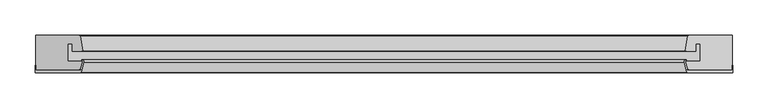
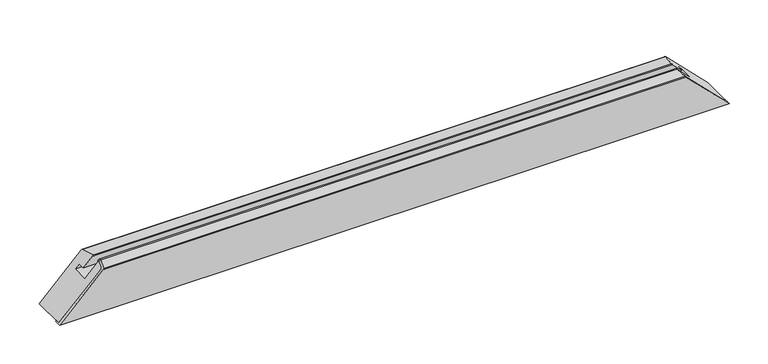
"""IFC4 building model written with IfcOpenShell, lengths in millimetres: proxy geometry, Weiku - Montante - Caixilho fixo 02.2.01.005 : Weiku - Montante - Caixilho fixo 02.2.01.005."""

from ifc_helpers import new_model, si_unit, frame, origin, place, context, project, spatial, polyline, ellipse_curve, source, transform, mapped, element, save
from ifc_brep_helpers import plane_surface, cylinder_surface, revolved_surface, advanced_brep


def generic_models_c9293ff8(model_context):
    return source(origin(), model_context, "Body", "AdvancedBrep", [
        advanced_brep(
        [(498.5, -43.5137905, -1.0), (497.5, -43.5137905, 0.0), (497.5, -50.0, 0.0), (435.9997332, -50.0, 61.5002668), (433.1019557, -47.7764571, 64.3980443), (430.618227, -38.5070552, 66.881773), (431.3909676, -37.5, 66.1090324), (431.3909676, -35.5, 66.1090324), (428.6863753, -39.0246933, 68.8136247), (432.5003978, -53.258819, 64.9996022), (433.4663236, -54.0, 64.0336764), (498.5, -54.0, -1.0), (-498.5, -54.0, -1.0), (-433.4663236, -54.0, 64.0336764), (-432.5003978, -53.258819, 64.9996022), (-428.6863753, -39.0246933, 68.8136247), (-431.3909676, -35.5, 66.1090324), (-431.3909676, -37.5, 66.1090324), (-430.618227, -38.5070552, 66.881773), (-433.1019557, -47.7764571, 64.3980443), (-435.9997332, -50.0, 61.5002668), (-497.5, -50.0, 0.0), (-497.5, -43.5137905, 0.0), (-498.5, -43.5137905, -1.0)],
        [
            (0, 1),
            (1, 2),
            (2, 3),
            (3, 4, ellipse_curve(frame((435.9997332, -47.0, 61.5002668), z_axis=(-0.7071067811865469, 0.0, -0.7071067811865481), x_axis=(0.7071067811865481, 0.0, -0.7071067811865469)), 4.2426407, 3.0)),
            (4, 5),
            (5, 6, ellipse_curve(frame((431.3909676, -38.3, 66.1090324), z_axis=(-0.7071067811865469, 0.0, -0.7071067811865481), x_axis=(0.7071067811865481, 0.0, -0.7071067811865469)), 1.1313708, 0.8)),
            (6, 7),
            (7, 8, ellipse_curve(frame((431.3909676, -38.3, 66.1090324), z_axis=(0.7071067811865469, 0.0, 0.7071067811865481), x_axis=(-0.7071067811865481, 0.0, 0.7071067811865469)), 3.959798, 2.8)),
            (8, 9),
            (9, 10, ellipse_curve(frame((433.4663236, -53.0, 64.0336764), z_axis=(0.7071067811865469, 0.0, 0.7071067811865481), x_axis=(-0.7071067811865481, 0.0, 0.7071067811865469)), 1.4142136, 1.0)),
            (10, 11),
            (11, 0),
            (12, 13),
            (13, 14, ellipse_curve(frame((-433.4663236, -53.0, 64.0336764), z_axis=(-0.7071067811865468, 0.0, 0.7071067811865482), x_axis=(-0.7071067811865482, 0.0, -0.7071067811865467)), 1.4142136, 1.0)),
            (14, 15),
            (15, 16, ellipse_curve(frame((-431.3909676, -38.3, 66.1090324), z_axis=(-0.7071067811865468, 0.0, 0.7071067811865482), x_axis=(-0.7071067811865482, 0.0, -0.7071067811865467)), 3.959798, 2.8)),
            (16, 17),
            (17, 18, ellipse_curve(frame((-431.3909676, -38.3, 66.1090324), z_axis=(0.7071067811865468, 0.0, -0.7071067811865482), x_axis=(0.7071067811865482, 0.0, 0.7071067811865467)), 1.1313708, 0.8)),
            (18, 19),
            (19, 20, ellipse_curve(frame((-435.9997332, -47.0, 61.5002668), z_axis=(0.7071067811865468, 0.0, -0.7071067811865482), x_axis=(0.7071067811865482, 0.0, 0.7071067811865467)), 4.2426407, 3.0)),
            (20, 21),
            (21, 22),
            (22, 23),
            (23, 12),
            (11, 12),
            (23, 0),
            (22, 1),
            (21, 2),
            (20, 3),
            (19, 4),
            (18, 5),
            (17, 6),
            (16, 7),
            (15, 8),
            (14, 9),
            (13, 10),
        ],
        [
            plane_surface(frame((427.5, 15.0, 70.0), z_axis=(0.7071067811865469, 0.0, 0.7071067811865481), x_axis=(0.0, -1.0, 0.0))),
            plane_surface(frame((-567.5, 15.0, -70.0), z_axis=(-0.7071067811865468, 0.0, 0.7071067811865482), x_axis=(0.0, -1.0, 0.0))),
            plane_surface(frame((-500.3284271, -54.0, -1.0), z_axis=(0.0, 0.0, -1.0), x_axis=(1.0, 0.0, 0.0))),
            plane_surface(frame((-500.3284271, -43.5137905, -1.0), z_axis=(0.0, 1.0, 0.0), x_axis=(1.0, 0.0, 0.0))),
            plane_surface(frame((-500.3284271, -43.5137905, 0.0), z_axis=(0.0, 0.0, 1.0), x_axis=(1.0, 0.0, 0.0))),
            plane_surface(frame((-500.3284271, -50.0, 0.0), z_axis=(0.0, 1.0, 0.0), x_axis=(1.0, 0.0, 0.0))),
            revolved_surface(polyline([(438.99973320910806, -44.0, 61.5002668), (-438.999733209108, -44.0, 61.5002668)]), (-500.3284271, -47.0, 61.5002668), (1.0, 0.0, 0.0)),
            plane_surface(frame((-500.3284271, -47.7764571, 64.3980443), z_axis=(0.0, 0.2588190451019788, -0.9659258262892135), x_axis=(1.0, 0.0, 0.0))),
            revolved_surface(polyline([(432.1909675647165, -37.5, 66.1090324), (-432.19096756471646, -37.5, 66.1090324)]), (-500.3284271, -38.3, 66.1090324), (1.0, 0.0, 0.0)),
            plane_surface(frame((-500.3284271, -37.5, 66.1090324), z_axis=(0.0, 0.0, -1.0), x_axis=(1.0, 0.0, 0.0))),
            cylinder_surface(frame((-500.3284271, -38.3, 66.1090324), z_axis=(-1.0, 0.0, 0.0), x_axis=(0.0, 1.0, 0.0)), 2.8),
            plane_surface(frame((-500.3284271, -39.0246933, 68.8136247), z_axis=(0.0, -0.25881904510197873, 0.9659258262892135), x_axis=(1.0, 0.0, 0.0))),
            cylinder_surface(frame((-500.3284271, -53.0, 64.0336764), z_axis=(-1.0, 0.0, 0.0), x_axis=(0.0, 1.0, 0.0)), 1.0),
            plane_surface(frame((-500.3284271, -54.0, 64.0336764), z_axis=(0.0, -1.0, 0.0), x_axis=(1.0, 0.0, 0.0))),
        ],
        [
            (0, [[1, 2, 3, 4, 5, 6, 7, 8, 9, 10, 11, 12]]),
            (1, [[13, 14, 15, 16, 17, 18, 19, 20, 21, 22, 23, 24]]),
            (2, [[25, -24, 26, -12]]),
            (3, [[-26, -23, 27, -1]]),
            (4, [[-27, -22, 28, -2]]),
            (5, [[-28, -21, 29, -3]]),
            (6, [[-29, -20, 30, -4]]),
            (7, [[-30, -19, 31, -5]]),
            (8, [[-31, -18, 32, -6]]),
            (9, [[-32, -17, 33, -7]]),
            (10, [[-33, -16, 34, -8]]),
            (11, [[-34, -15, 35, -9]]),
            (12, [[-35, -14, 36, -10]]),
            (13, [[-36, -13, -25, -11]]),
        ],
    ),
        advanced_brep(
        [(-430.618227, -38.5070552, 66.881773), (-431.3909676, -37.5, 66.1090324), (-451.5, -37.5, 46.0), (-451.5, -12.5, 46.0), (-445.5009154, -12.5, 51.9990846), (-445.5009154, -23.5, 51.9990846), (-431.4865015, -23.5, 66.0134985), (-430.4998537, -22.3371317, 67.0001463), (-434.0489094, -0.8371317, 63.4510906), (-435.0355572, 0.0, 62.4644428), (-497.5, 0.0, 0.0), (-497.5, -50.0, 0.0), (-435.9997332, -50.0, 61.5002668), (-433.1019557, -47.7764571, 64.3980443), (433.1019557, -47.7764571, 64.3980443), (435.9997332, -50.0, 61.5002668), (497.5, -50.0, 0.0), (497.5, 0.0, 0.0), (435.0355572, 0.0, 62.4644428), (434.0489094, -0.8371317, 63.4510906), (430.4998537, -22.3371317, 67.0001463), (431.4865015, -23.5, 66.0134985), (445.5009154, -23.5, 51.9990846), (445.5009154, -12.5, 51.9990846), (451.5, -12.5, 46.0), (451.5, -37.5, 46.0), (431.3909676, -37.5, 66.1090324), (430.618227, -38.5070552, 66.881773)],
        [
            (0, 1, ellipse_curve(frame((-431.3909676, -38.3, 66.1090324), z_axis=(-0.7071067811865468, 0.0, 0.7071067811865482), x_axis=(-0.7071067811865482, 0.0, -0.7071067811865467)), 1.1313708, 0.8)),
            (1, 2),
            (2, 3),
            (3, 4),
            (4, 5),
            (5, 6),
            (6, 7, ellipse_curve(frame((-431.4865015, -22.5, 66.0134985), z_axis=(-0.7071067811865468, 0.0, 0.7071067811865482), x_axis=(-0.7071067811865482, 0.0, -0.7071067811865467)), 1.4142136, 1.0)),
            (7, 8),
            (8, 9, ellipse_curve(frame((-435.0355572, -1.0, 62.4644428), z_axis=(-0.7071067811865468, 0.0, 0.7071067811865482), x_axis=(-0.7071067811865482, 0.0, -0.7071067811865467)), 1.4142136, 1.0)),
            (9, 10),
            (10, 11),
            (11, 12),
            (12, 13, ellipse_curve(frame((-435.9997332, -47.0, 61.5002668), z_axis=(-0.7071067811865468, 0.0, 0.7071067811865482), x_axis=(-0.7071067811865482, 0.0, -0.7071067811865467)), 4.2426407, 3.0)),
            (13, 0),
            (14, 15, ellipse_curve(frame((435.9997332, -47.0, 61.5002668), z_axis=(0.7071067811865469, 0.0, 0.7071067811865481), x_axis=(-0.7071067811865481, 0.0, 0.7071067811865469)), 4.2426407, 3.0)),
            (15, 16),
            (16, 17),
            (17, 18),
            (18, 19, ellipse_curve(frame((435.0355572, -1.0, 62.4644428), z_axis=(0.7071067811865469, 0.0, 0.7071067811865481), x_axis=(-0.7071067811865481, 0.0, 0.7071067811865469)), 1.4142136, 1.0)),
            (19, 20),
            (20, 21, ellipse_curve(frame((431.4865015, -22.5, 66.0134985), z_axis=(0.7071067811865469, 0.0, 0.7071067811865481), x_axis=(-0.7071067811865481, 0.0, 0.7071067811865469)), 1.4142136, 1.0)),
            (21, 22),
            (22, 23),
            (23, 24),
            (24, 25),
            (25, 26),
            (26, 27, ellipse_curve(frame((431.3909676, -38.3, 66.1090324), z_axis=(0.7071067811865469, 0.0, 0.7071067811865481), x_axis=(-0.7071067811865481, 0.0, 0.7071067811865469)), 1.1313708, 0.8)),
            (27, 14),
            (13, 14),
            (27, 0),
            (12, 15),
            (11, 16),
            (10, 17),
            (9, 18),
            (8, 19),
            (7, 20),
            (6, 21),
            (5, 22),
            (4, 23),
            (3, 24),
            (2, 25),
            (1, 26),
        ],
        [
            plane_surface(frame((-567.5, 15.0, -70.0), z_axis=(-0.7071067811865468, 0.0, 0.7071067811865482), x_axis=(0.0, -1.0, 0.0))),
            plane_surface(frame((427.5, 15.0, 70.0), z_axis=(0.7071067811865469, 0.0, 0.7071067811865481), x_axis=(0.0, -1.0, 0.0))),
            plane_surface(frame((-497.5, -38.5070552, 66.881773), z_axis=(0.0, -0.2588190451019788, 0.9659258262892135), x_axis=(1.0, 0.0, 0.0))),
            cylinder_surface(frame((-497.5, -47.0, 61.5002668), z_axis=(-1.0, 0.0, 0.0), x_axis=(0.0, 1.0, 0.0)), 3.0),
            plane_surface(frame((-497.5, -50.0, 61.5002668), z_axis=(0.0, -1.0, 0.0), x_axis=(1.0, 0.0, 0.0))),
            plane_surface(frame((-497.5, -50.0, 0.0), z_axis=(0.0, 0.0, -1.0), x_axis=(1.0, 0.0, 0.0))),
            plane_surface(frame((-497.5, 0.0, 0.0), z_axis=(0.0, 1.0, 0.0), x_axis=(1.0, 0.0, 0.0))),
            cylinder_surface(frame((-497.5, -1.0, 62.4644428), z_axis=(-1.0, 0.0, 0.0), x_axis=(0.0, -1.0, 0.0)), 1.0),
            plane_surface(frame((-497.5, -0.8371317, 63.4510906), z_axis=(0.0, 0.16286828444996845, 0.9866478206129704), x_axis=(1.0, 0.0, 0.0))),
            cylinder_surface(frame((-497.5, -22.5, 66.0134985), z_axis=(-1.0, 0.0, 0.0), x_axis=(0.0, -1.0, 0.0)), 1.0),
            plane_surface(frame((-497.5, -23.5, 66.0134985), z_axis=(0.0, -1.0, 0.0), x_axis=(1.0, 0.0, 0.0))),
            plane_surface(frame((-497.5, -23.5, 51.9990846), z_axis=(0.0, 0.0, -1.0), x_axis=(1.0, 0.0, 0.0))),
            plane_surface(frame((-497.5, -12.5, 51.9990846), z_axis=(0.0, -1.0, 0.0), x_axis=(1.0, 0.0, 0.0))),
            plane_surface(frame((-497.5, -12.5, 46.0), z_axis=(0.0, 0.0, 1.0), x_axis=(1.0, 0.0, 0.0))),
            plane_surface(frame((-497.5, -37.5, 46.0), z_axis=(0.0, 1.0, 0.0), x_axis=(1.0, 0.0, 0.0))),
            cylinder_surface(frame((-497.5, -38.3, 66.1090324), z_axis=(-1.0, 0.0, 0.0), x_axis=(0.0, 1.0, 0.0)), 0.8),
        ],
        [
            (0, [[1, 2, 3, 4, 5, 6, 7, 8, 9, 10, 11, 12, 13, 14]]),
            (1, [[15, 16, 17, 18, 19, 20, 21, 22, 23, 24, 25, 26, 27, 28]]),
            (2, [[29, -28, 30, -14]]),
            (3, [[31, -15, -29, -13]]),
            (4, [[-16, -31, -12, 32]]),
            (5, [[-11, 33, -17, -32]]),
            (6, [[-10, 34, -18, -33]]),
            (7, [[35, -19, -34, -9]]),
            (8, [[36, -20, -35, -8]]),
            (9, [[37, -21, -36, -7]]),
            (10, [[38, -22, -37, -6]]),
            (11, [[39, -23, -38, -5]]),
            (12, [[40, -24, -39, -4]]),
            (13, [[41, -25, -40, -3]]),
            (14, [[42, -26, -41, -2]]),
            (15, [[-30, -27, -42, -1]]),
        ],
    ),
    ])


if __name__ == "__main__":
    model = new_model("IFC4")
    model_context = context("Model", 3, world=origin())
    ifc_project = project(units=[si_unit("LENGTHUNIT", "METRE", prefix="MILLI")], contexts=[model_context])
    site = spatial("IfcSite", under=ifc_project)
    building = spatial("IfcBuilding", under=site)
    placement = place(None, origin())
    generic_models_shape = generic_models_c9293ff8(model_context)
    element("IfcBuildingElementProxy", 1, Name="Weiku - Montante - Caixilho fixo 02.2.01.005 : Weiku - Montante - Caixilho fixo 02.2.01.005", ObjectType="Weiku - Montante - Caixilho fixo 02.2.01.005 : Weiku - Montante - Caixilho fixo 02.2.01.005", at=placement, inside=building, context=model_context, shape_type="MappedRepresentation", body=[
        mapped(generic_models_shape, transform((0.0, 0.0, 0.0), x_axis=(1.0, 0.0, 0.0), y_axis=(0.0, 1.0, 0.0), z_axis=(0.0, 0.0, 1.0))),
    ])
    save(model, "model.ifc")
